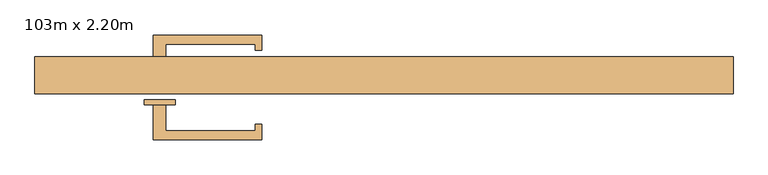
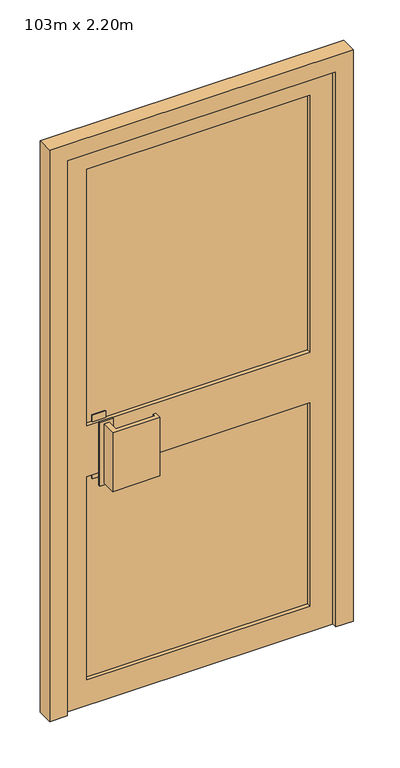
"""IFC4 building model written with IfcOpenShell, lengths in millimetres: door geometry, PVC Panneau Vitré - Traverse : 103m x 2.20m."""

from ifc_helpers import new_model, si_unit, point, frame, origin, place, context, project, spatial, polyline, ellipse_curve, trimmed, outline, extrude, faceted_brep, source, transform, mapped, element, save
from ifc_brep_helpers import plane_surface, extruded_surface, advanced_brep


def door_103m_x_2_20m_9864a9ee(model_context):
    return source(origin(), model_context, "Body", "SolidModel", [
        advanced_brep(
        [(-338.2140438, 40.7312497, 875.0), (-388.2140438, 40.7312497, 875.0), (-388.2140438, 40.7312497, 1125.0), (-338.2140438, 40.7312497, 1125.0), (-363.1067757, 40.7312497, 953.6170149), (-363.1067757, 40.7312497, 913.6170149), (-338.2140438, 32.7312497, 875.0), (-338.2140438, 32.7312497, 1125.0), (-388.2140438, 32.7312497, 1125.0), (-388.2140438, 32.7312497, 875.0), (-363.1067757, 32.7312497, 953.6170149), (-363.1067757, 32.7312497, 913.6170149)],
        [
            (0, 1),
            (1, 2),
            (2, 3),
            (3, 0),
            (4, 5, ellipse_curve(frame((-363.1067757, 40.7312497, 933.6170149), z_axis=(0.0, -1.0, 0.0), x_axis=(0.0, 0.0, -1.0)), 20.0, 7.0010983)),
            (5, 4, ellipse_curve(frame((-363.1067757, 40.7312497, 933.6170149), z_axis=(0.0, -1.0, 0.0), x_axis=(0.0, 0.0, -1.0)), 20.0, 7.0010983)),
            (6, 7),
            (7, 8),
            (8, 9),
            (9, 6),
            (10, 11, ellipse_curve(frame((-363.1067757, 32.7312497, 933.6170149), z_axis=(0.0, 1.0, 0.0), x_axis=(0.0, 0.0, -1.0)), 20.0, 7.0010983)),
            (11, 10, ellipse_curve(frame((-363.1067757, 32.7312497, 933.6170149), z_axis=(0.0, 1.0, 0.0), x_axis=(0.0, 0.0, -1.0)), 20.0, 7.0010983)),
            (3, 7),
            (6, 0),
            (2, 8),
            (1, 9),
            (5, 11),
            (10, 4),
        ],
        [
            plane_surface(frame((-338.2140438, 40.7312497, 1100.0), z_axis=(0.0, 1.0, 0.0), x_axis=(0.0, 0.0, 1.0))),
            plane_surface(frame((-338.2140438, 32.7312497, 1100.0), z_axis=(0.0, -1.0, 0.0), x_axis=(0.0, 0.0, -1.0))),
            plane_surface(frame((-338.2140438, 40.7312497, 875.0), z_axis=(1.0, 0.0, 0.0), x_axis=(0.0, -1.0, 0.0))),
            plane_surface(frame((-338.2140438, 40.7312497, 1125.0), z_axis=(0.0, 0.0, 1.0), x_axis=(0.0, -1.0, 0.0))),
            plane_surface(frame((-388.2140438, 40.7312497, 1125.0), z_axis=(-1.0, 0.0, 0.0), x_axis=(0.0, -1.0, 0.0))),
            plane_surface(frame((-388.2140438, 40.7312497, 875.0), z_axis=(0.0, 0.0, -1.0), x_axis=(0.0, -1.0, 0.0))),
            extruded_surface(trimmed(ellipse_curve(frame((-363.1067757, 32.7312497, 933.6170149), z_axis=(0.0, 1.0, 0.0), x_axis=(0.0, 0.0, -1.0)), 20.0, 7.0010983), [point((-363.1067757, 32.7312497, 953.6170149))], [point((-363.1067757, 32.7312497, 913.6170149))], True, "CARTESIAN"), (0.0, -8.0, 0.0), 8.0),
            extruded_surface(trimmed(ellipse_curve(frame((-363.1067757, 32.7312497, 933.6170149), z_axis=(0.0, 1.0, 0.0), x_axis=(0.0, 0.0, -1.0)), 20.0, 7.0010983), [point((-363.1067757, 32.7312497, 913.6170149))], [point((-363.1067757, 32.7312497, 953.6170149))], True, "CARTESIAN"), (0.0, -8.0, 0.0), 8.0),
        ],
        [
            (0, [[1, 2, 3, 4], [5, 6]]),
            (1, [[7, 8, 9, 10], [11, 12]]),
            (2, [[13, -7, 14, -4]]),
            (3, [[15, -8, -13, -3]]),
            (4, [[16, -9, -15, -2]]),
            (5, [[-14, -10, -16, -1]]),
            (6, [[17, -11, 18, -6]]),
            (7, [[-18, -12, -17, -5]]),
        ],
    ),
        extrude(outline(polyline([(-373.5, -24.0969165), (-373.5, 32.7312497), (-353.5, 32.7312497), (-353.5, -9.0969165), (-208.2140438, -9.0969165), (-208.2140438, 0.9030835), (-198.2140438, 0.9030835), (-198.2140438, -24.0969165), (-373.5, -24.0969165)])), frame((0.0, 0.0, 883.8962493), z_axis=(0.0, 0.0, 1.0), x_axis=(1.0, 0.0, 0.0)), (0.0, 0.0, 1.0), 231.5058955),
        extrude(outline(polyline([(-373.5, 145.5594159), (-198.2140438, 145.5594159), (-198.2140438, 120.5594159), (-208.2140438, 120.5594159), (-208.2140438, 130.5594159), (-353.5, 130.5594159), (-353.5, 88.7312497), (-373.5, 88.7312497), (-373.5, 145.5594159)])), frame((0.0, 0.0, 883.8962493), z_axis=(0.0, 0.0, 1.0), x_axis=(1.0, 0.0, 0.0)), (0.0, 0.0, 1.0), 231.5058955),
        advanced_brep(
        [(-338.2140438, 88.7312497, 875.0), (-388.2140438, 88.7312497, 875.0), (-388.2140438, 88.7312497, 1125.0), (-338.2140438, 88.7312497, 1125.0), (-363.1067757, 88.7312497, 953.6170149), (-363.1067757, 88.7312497, 913.6170149), (-338.2140438, 80.7312497, 875.0), (-338.2140438, 80.7312497, 1125.0), (-388.2140438, 80.7312497, 1125.0), (-388.2140438, 80.7312497, 875.0), (-363.1067757, 80.7312497, 953.6170149), (-363.1067757, 80.7312497, 913.6170149)],
        [
            (0, 1),
            (1, 2),
            (2, 3),
            (3, 0),
            (4, 5, ellipse_curve(frame((-363.1067757, 88.7312497, 933.6170149), z_axis=(0.0, -1.0, 0.0), x_axis=(0.0, 0.0, -1.0)), 20.0, 7.0010983)),
            (5, 4, ellipse_curve(frame((-363.1067757, 88.7312497, 933.6170149), z_axis=(0.0, -1.0, 0.0), x_axis=(0.0, 0.0, -1.0)), 20.0, 7.0010983)),
            (6, 7),
            (7, 8),
            (8, 9),
            (9, 6),
            (10, 11, ellipse_curve(frame((-363.1067757, 80.7312497, 933.6170149), z_axis=(0.0, 1.0, 0.0), x_axis=(0.0, 0.0, -1.0)), 20.0, 7.0010983)),
            (11, 10, ellipse_curve(frame((-363.1067757, 80.7312497, 933.6170149), z_axis=(0.0, 1.0, 0.0), x_axis=(0.0, 0.0, -1.0)), 20.0, 7.0010983)),
            (3, 7),
            (6, 0),
            (2, 8),
            (1, 9),
            (5, 11),
            (10, 4),
        ],
        [
            plane_surface(frame((-338.2140438, 88.7312497, 1100.0), z_axis=(0.0, 1.0, 0.0), x_axis=(0.0, 0.0, 1.0))),
            plane_surface(frame((-338.2140438, 80.7312497, 1100.0), z_axis=(0.0, -1.0, 0.0), x_axis=(0.0, 0.0, -1.0))),
            plane_surface(frame((-338.2140438, 88.7312497, 875.0), z_axis=(1.0, 0.0, 0.0), x_axis=(0.0, -1.0, 0.0))),
            plane_surface(frame((-338.2140438, 88.7312497, 1125.0), z_axis=(0.0, 0.0, 1.0), x_axis=(0.0, -1.0, 0.0))),
            plane_surface(frame((-388.2140438, 88.7312497, 1125.0), z_axis=(-1.0, 0.0, 0.0), x_axis=(0.0, -1.0, 0.0))),
            plane_surface(frame((-388.2140438, 88.7312497, 875.0), z_axis=(0.0, 0.0, -1.0), x_axis=(0.0, -1.0, 0.0))),
            extruded_surface(trimmed(ellipse_curve(frame((-363.1067757, 80.7312497, 933.6170149), z_axis=(0.0, 1.0, 0.0), x_axis=(0.0, 0.0, -1.0)), 20.0, 7.0010983), [point((-363.1067757, 80.7312497, 953.6170149))], [point((-363.1067757, 80.7312497, 913.6170149))], True, "CARTESIAN"), (0.0, -8.0, 0.0), 8.0),
            extruded_surface(trimmed(ellipse_curve(frame((-363.1067757, 80.7312497, 933.6170149), z_axis=(0.0, 1.0, 0.0), x_axis=(0.0, 0.0, -1.0)), 20.0, 7.0010983), [point((-363.1067757, 80.7312497, 913.6170149))], [point((-363.1067757, 80.7312497, 953.6170149))], True, "CARTESIAN"), (0.0, -8.0, 0.0), 8.0),
        ],
        [
            (0, [[1, 2, 3, 4], [5, 6]]),
            (1, [[7, 8, 9, 10], [11, 12]]),
            (2, [[13, -7, 14, -4]]),
            (3, [[15, -8, -13, -3]]),
            (4, [[16, -9, -15, -2]]),
            (5, [[-14, -10, -16, -1]]),
            (6, [[17, -11, 18, -6]]),
            (7, [[-18, -12, -17, -5]]),
        ],
    ),
        faceted_brep([(-565.0, 110.0, 0.0), (-515.0, 110.0, 0.0), (-515.0, 70.0, 0.0), (-500.0, 70.0, 0.0), (-500.0, 50.0, 0.0), (-565.0, 50.0, 0.0), (-565.0, 50.0, 2250.0), (-565.0, 110.0, 2250.0), (-500.0, 50.0, 2185.0), (500.0, 50.0, 2185.0), (500.0, 50.0, 0.0), (565.0, 50.0, 0.0), (565.0, 50.0, 2250.0), (-500.0, 70.0, 2185.0), (-515.0, 70.0, 2200.0), (515.0, 70.0, 2200.0), (515.0, 70.0, 0.0), (500.0, 70.0, 0.0), (500.0, 70.0, 2185.0), (-515.0, 110.0, 2200.0), (565.0, 110.0, 2250.0), (565.0, 110.0, 0.0), (515.0, 110.0, 0.0), (515.0, 110.0, 2200.0)], [[[0, 1, 2, 3, 4, 5]], [[5, 6, 7, 0]], [[4, 8, 9, 10, 11, 12, 6, 5]], [[3, 13, 8, 4]], [[2, 14, 15, 16, 17, 18, 13, 3]], [[1, 19, 14, 2]], [[0, 7, 20, 21, 22, 23, 19, 1]], [[12, 11, 21, 20]], [[21, 11, 10, 17, 16, 22]], [[18, 17, 10, 9]], [[23, 22, 16, 15]], [[6, 12, 20, 7]], [[13, 18, 9, 8]], [[19, 23, 15, 14]]]),
        extrude(outline(polyline([(415.0, 95.0), (415.0, 85.0), (-415.0, 85.0), (-415.0, 95.0), (415.0, 95.0)])), frame((0.0, 0.0, 1100.0), z_axis=(0.0, 0.0, 1.0), x_axis=(1.0, 0.0, 0.0)), (0.0, 0.0, 1.0), 1010.0),
        extrude(outline(polyline([(415.0, 95.0), (415.0, 85.0), (-415.0, 85.0), (-415.0, 95.0), (415.0, 95.0)])), frame((0.0, 0.0, 100.0), z_axis=(0.0, 0.0, 1.0), x_axis=(1.0, 0.0, 0.0)), (0.0, 0.0, 1.0), 800.0),
        extrude(outline(polyline([(2200.0, -515.0), (0.0, -515.0), (0.0, 515.0), (2200.0, 515.0), (2200.0, -515.0)]), holes=[polyline([(2110.0, 415.0), (1100.0, 415.0), (1100.0, -415.0), (2110.0, -415.0), (2110.0, 415.0)]), polyline([(100.0, 415.0), (100.0, -415.0), (900.0, -415.0), (900.0, 415.0), (100.0, 415.0)])]), frame((0.0, 70.0, 0.0), z_axis=(0.0, 1.0, 0.0), x_axis=(0.0, 0.0, 1.0)), (0.0, 0.0, 1.0), 40.0),
    ])


if __name__ == "__main__":
    model = new_model("IFC4")
    model_context = context("Model", 3, world=origin())
    ifc_project = project(units=[si_unit("LENGTHUNIT", "METRE", prefix="MILLI")], contexts=[model_context])
    site = spatial("IfcSite", under=ifc_project)
    building = spatial("IfcBuilding", under=site)
    placement = place(None, origin())
    door_103m_x_2_20m_shape = door_103m_x_2_20m_9864a9ee(model_context)
    element("IfcDoor", 1, ObjectType="PVC Panneau Vitré - Traverse : 103m x 2.20m", at=placement, inside=building, context=model_context, shape_type="MappedRepresentation", body=[
        mapped(door_103m_x_2_20m_shape, transform((0.0, 0.0, 0.0), x_axis=(1.0, 0.0, 0.0), y_axis=(0.0, 1.0, 0.0), z_axis=(0.0, 0.0, 1.0))),
    ])
    save(model, "model.ifc")
